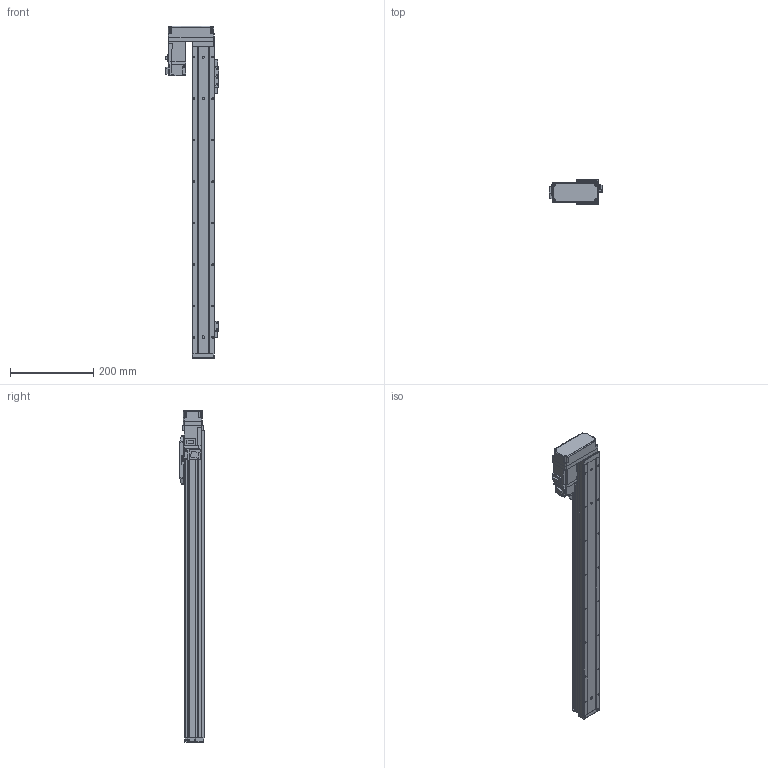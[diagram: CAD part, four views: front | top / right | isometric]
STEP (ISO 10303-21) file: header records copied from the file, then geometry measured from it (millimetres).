
FILE_DESCRIPTION (( 'STEP AP214' ), '1' );
FILE_NAME ('N_GRH5-600-BR-M10.step', '2025-03-14T10:58:16', ( '' ), ( '' ), 'SwSTEP 2.0', 'SolidWorks 2016', '' );
FILE_SCHEMA (( 'AUTOMOTIVE_DESIGN' ));
Length unit declared in the file: millimetre
Products named in the file (5): N_GRH5-GY-004^N_GRH5-600-BR-M10; N_GRH5-600-BR-M10; N_GRH5-BL-008^N_GRH5-600-BR-M10; HF-KP13_100W_Motor^N_GRH5-600-BR-M10; N_GRH5-GY-011^N_GRH5-600-BR-M10
Assembly tree (4 placements, depth 2):
  N_GRH5-600-BR-M10
    N_GRH5-GY-011^N_GRH5-600-BR-M10
    N_GRH5-GY-004^N_GRH5-600-BR-M10
    HF-KP13_100W_Motor^N_GRH5-600-BR-M10
    N_GRH5-BL-008^N_GRH5-600-BR-M10
Bounding box: 128.85 x 60 x 800 mm (x, y, z)
Volume: 1513889.4 mm3; surface area: 383682.4 mm2
Topology: 4 solids, 5 shells, 964 faces, 2456 edges, 1557 vertices
Faces by surface type: plane 553, cylinder 336, cone 50, bspline 15, sphere 10
Entity records: 36643 total; most frequent: CARTESIAN_POINT 5743, DIRECTION 4985, ORIENTED_EDGE 4848, EDGE_CURVE 2424, AXIS2_PLACEMENT_3D 1663, LINE 1659, VECTOR 1659, VERTEX_POINT 1555
